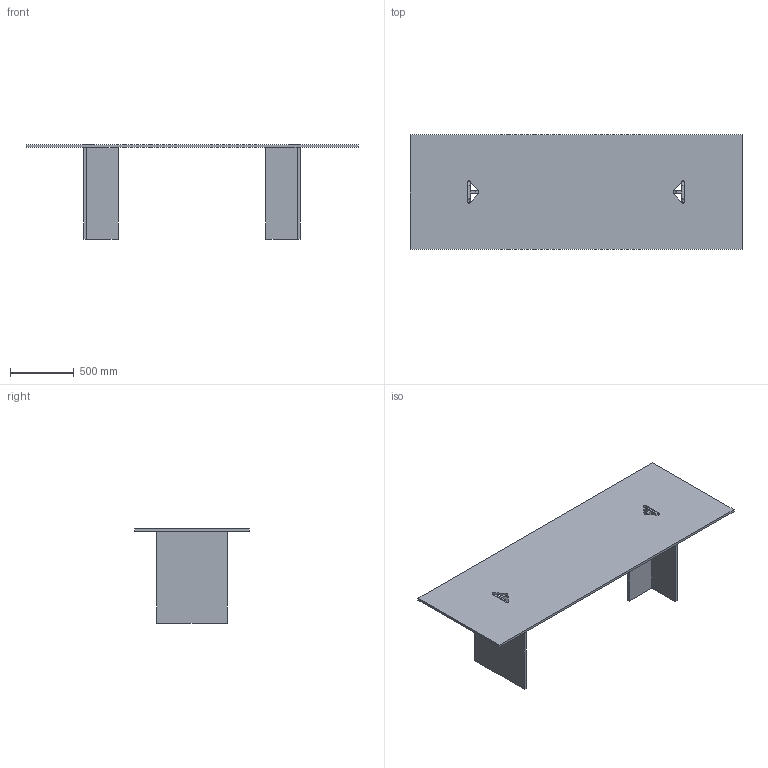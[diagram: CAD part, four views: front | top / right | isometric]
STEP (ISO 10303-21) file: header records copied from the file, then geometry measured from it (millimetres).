
FILE_DESCRIPTION(/* description */ (''),/* implementation_level */ '2;1');
FILE_NAME(/* name */ 'LLT-E-~1',/* time_stamp */ '2023-11-29T12:46:42+01:00',/* author */ (''),/* organization */ (''),/* preprocessor_version */ 'ST-DEVELOPER v16.5',/* originating_system */ '',/* authorisation */ '');
FILE_SCHEMA (('AUTOMOTIVE_DESIGN'));
Length unit declared in the file: millimetre
Products named in the file (1): Document
Bounding box: 2600 x 900 x 737 mm (x, y, z)
Volume: 65941058.9 mm3; surface area: 7264100.9 mm2
Topology: 5 solids, 5 shells, 42 faces, 96 edges, 64 vertices
Faces by surface type: plane 32, bspline 10
Entity records: 1293 total; most frequent: CARTESIAN_POINT 586, ORIENTED_EDGE 192, EDGE_CURVE 96, B_SPLINE_CURVE_WITH_KNOTS 84, VERTEX_POINT 64, EDGE_LOOP 46, ADVANCED_FACE 42, FACE_OUTER_BOUND 42
